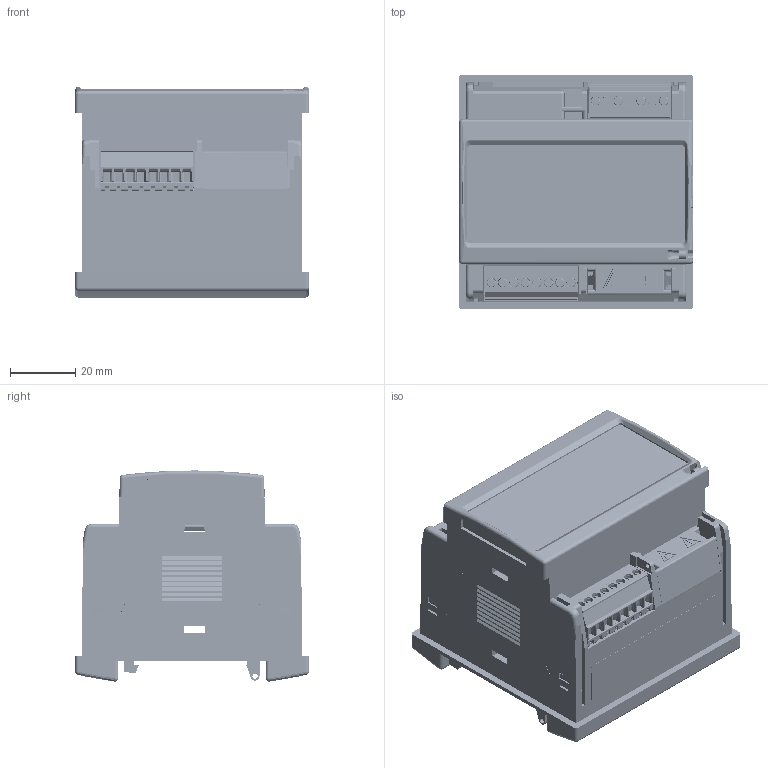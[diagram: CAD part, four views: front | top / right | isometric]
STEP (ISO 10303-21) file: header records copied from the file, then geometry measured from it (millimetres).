
FILE_DESCRIPTION(/* description */ (''),/* implementation_level */ '2;1');
FILE_NAME(/* name */ 'D:\Meccanica\72x72\EM2172F\EM270 Din rail Mounting_1.stp',/* time_stamp */ '2014-10-24T13:41:42+02:00',/* author */ ('dfregona'),/* organization */ (''),/* preprocessor_version */ 'ST-DEVELOPER v15.2',/* originating_system */ 'Autodesk Inventor 2014',/* authorisation */ '');
FILE_SCHEMA (('AUTOMOTIVE_DESIGN { 1 0 10303 214 3 1 1 }'));
Products named in the file (1): EM270 Din rail Mounting
Bounding box: 71.7 x 71.7 x 64.61 mm (x, y, z)
Surface area: 146020.3 mm2 (no closed solid volume)
Topology: 0 solids, 92 shells, 11352 faces, 31813 edges, 20738 vertices
Faces by surface type: plane 8074, cylinder 2748, torus 182, cone 167, bspline 91, sphere 90
Full cylindrical faces by diameter (mm): 0.5 x14, 0.6 x4, 0.8 x79, 0.9 x12, 1 x54, 1.2 x74, 1.3 x6, 1.4 x2, 1.52 x5, 1.6 x2, 2 x6, 2.1 x2, 2.3 x1, 2.8 x4, 2.9 x30, 3 x6, 3.25 x4, 4 x2, 4.2 x3, 4.4 x1, 5.6 x1, 6.7 x1, 6.8 x2, 8 x2, 9 x2, 18 x1
Entity records: 385212 total; most frequent: CARTESIAN_POINT 80597, ORIENTED_EDGE 62390, DIRECTION 58809, EDGE_CURVE 31135, LINE 23539, VECTOR 23539, VERTEX_POINT 20616, AXIS2_PLACEMENT_3D 17635
